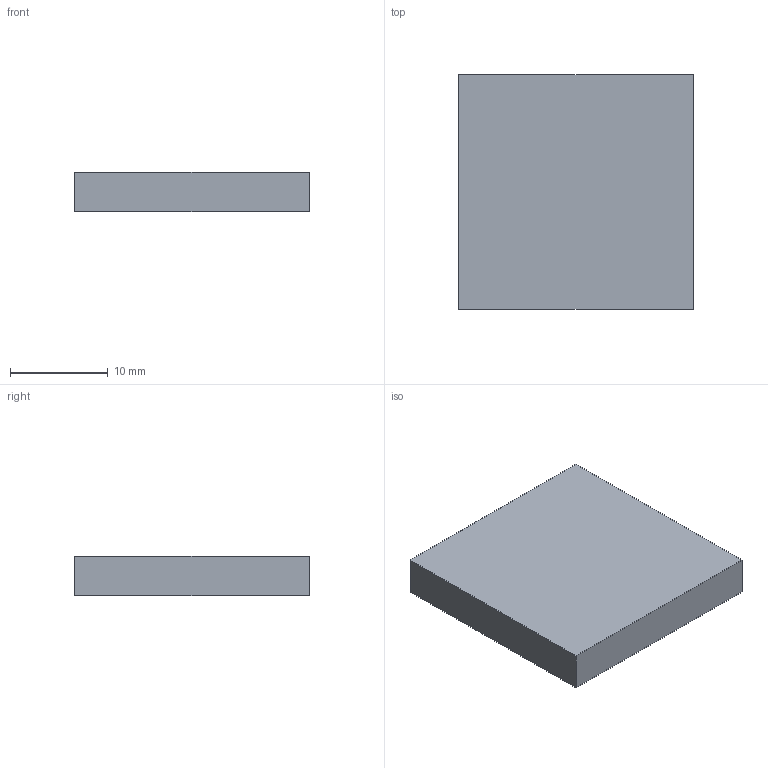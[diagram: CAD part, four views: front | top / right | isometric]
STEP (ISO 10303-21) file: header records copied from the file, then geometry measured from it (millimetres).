
FILE_DESCRIPTION(('Open CASCADE Model'),'2;1');
FILE_NAME('Open CASCADE Shape Model','2026-10-04T02:31:39',('Author'),( 'Open CASCADE'),'Open CASCADE STEP processor 8.0','Open CASCADE 8.0' ,'Unknown');
FILE_SCHEMA(('AUTOMOTIVE_DESIGN { 1 0 10303 214 1 1 1 1 }'));
Length unit declared in the file: millimetre
Products named in the file (1): Open CASCADE STEP translator 8.0 181
Bounding box: 24 x 24 x 4 mm (x, y, z)
Volume: 2304 mm3; surface area: 1536 mm2
Topology: 1 solids, 1 shells, 6 faces, 12 edges, 8 vertices
Faces by surface type: plane 6
Entity records: 322 total; most frequent: CARTESIAN_POINT 51, DIRECTION 50, LINE 36, VECTOR 36, ORIENTED_EDGE 24, PCURVE 24, DEFINITIONAL_REPRESENTATION 24, EDGE_CURVE 12
